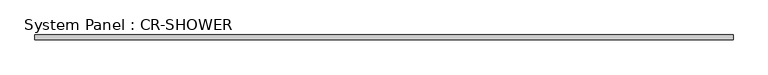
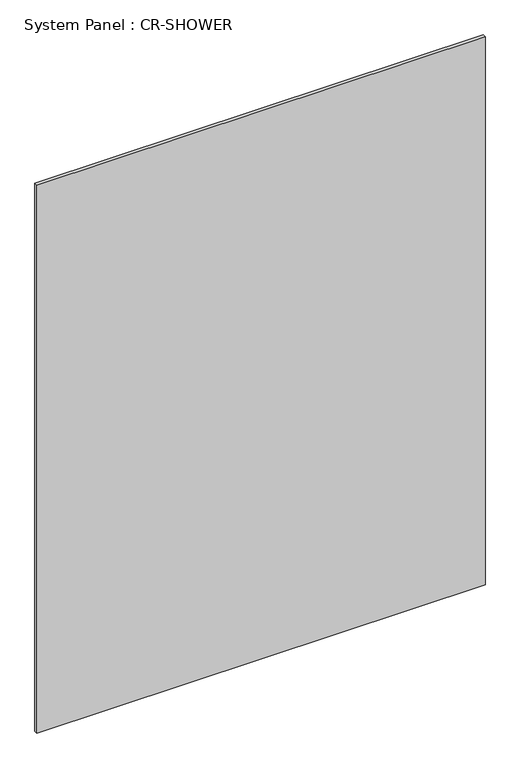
"""IFC4 building model written with IfcOpenShell, lengths in millimetres: plate geometry, System Panel : CR-SHOWER."""

from ifc_helpers import new_model, si_unit, origin, origin_with_axes, place, context, project, spatial, polyline, outline, extrude, source, transform, mapped, element, save


def system_panel_cr_shower_91ed7f58(model_context):
    return source(origin(), model_context, "Body", "SweptSolid", [
        extrude(outline(polyline([(870.7186812, -0.05), (-870.7186812, -0.05), (-870.7186812, 12.45), (870.7186812, 12.45), (870.7186812, -0.05)])), origin_with_axes(), (0.0, 0.0, 1.0), 2250.0),
    ])


if __name__ == "__main__":
    model = new_model("IFC4")
    model_context = context("Model", 3, world=origin())
    ifc_project = project(units=[si_unit("LENGTHUNIT", "METRE", prefix="MILLI")], contexts=[model_context])
    site = spatial("IfcSite", under=ifc_project)
    building = spatial("IfcBuilding", under=site)
    placement = place(None, origin())
    system_panel_cr_shower_shape = system_panel_cr_shower_91ed7f58(model_context)
    element("IfcPlate", 1, ObjectType="System Panel : CR-SHOWER", at=placement, inside=building, context=model_context, shape_type="MappedRepresentation", body=[
        mapped(system_panel_cr_shower_shape, transform((0.0, 0.0, 0.0), x_axis=(1.0, 0.0, 0.0), y_axis=(0.0, 1.0, 0.0), z_axis=(0.0, 0.0, 1.0))),
    ])
    save(model, "model.ifc")
